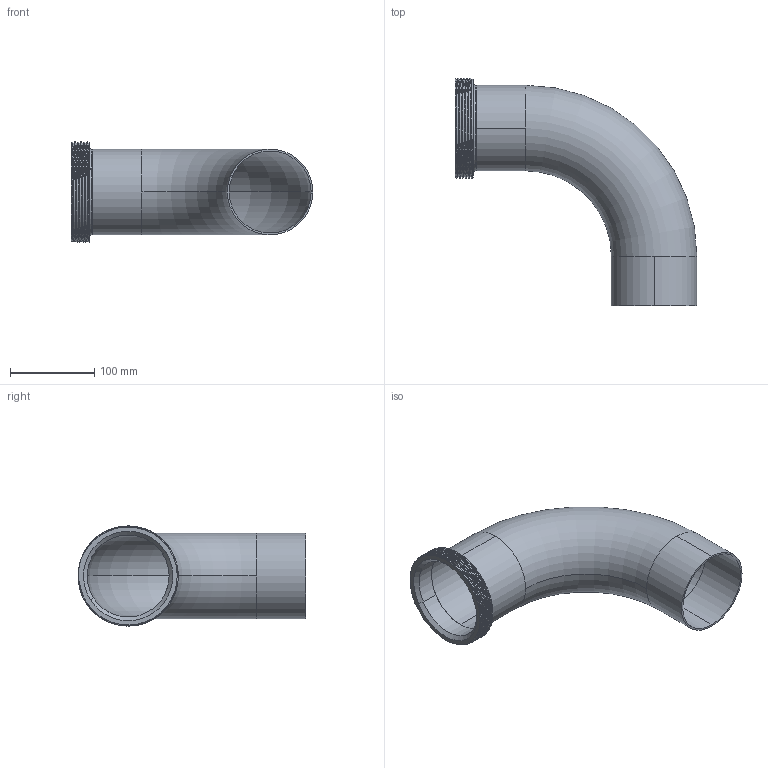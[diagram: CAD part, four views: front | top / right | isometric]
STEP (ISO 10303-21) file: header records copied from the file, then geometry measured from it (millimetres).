
FILE_DESCRIPTION (( 'STEP AP203' ), '1' );
FILE_NAME ('E2T4.0.STEP', '2018-05-02T15:30:05', ( 'vneprd' ), ( 'Microsoft' ), 'SwSTEP 2.0', 'SolidWorks 2014', '' );
FILE_SCHEMA (( 'CONFIG_CONTROL_DESIGN' ));
Length unit declared in the file: inch
Products named in the file (3): E2S4.0; 15TR4.0; E2T4.0
Assembly tree (2 placements, depth 2):
  E2T4.0
    E2S4.0
    15TR4.0
Bounding box: 287.32 x 270.56 x 118.87 mm (x, y, z)
Volume: 308368.8 mm3; surface area: 250645.2 mm2
Topology: 2 solids, 2 shells, 45 faces, 114 edges, 74 vertices
Faces by surface type: cylinder 26, plane 7, torus 6, bspline 4, cone 2
Entity records: 3405 total; most frequent: CARTESIAN_POINT 2063, ORIENTED_EDGE 228, DIRECTION 221, EDGE_CURVE 114, AXIS2_PLACEMENT_3D 92, VERTEX_POINT 74, EDGE_LOOP 50, CIRCLE 46
